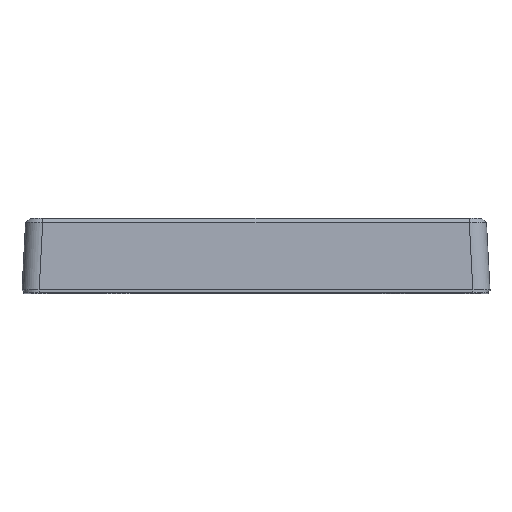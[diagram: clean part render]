
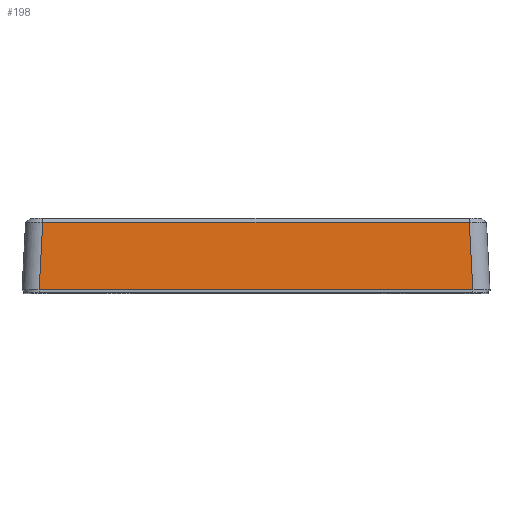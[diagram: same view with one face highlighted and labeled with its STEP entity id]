
A CAD part, top view. The second image highlights one B-rep face of the part: STEP entity #198.
In plain terms, the highlighted planar face has unit normal (0, 0.052, 0.999).
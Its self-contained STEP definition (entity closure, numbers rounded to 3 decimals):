
#57 = ORIENTED_EDGE ( 'NONE', *, *, #58, .T. ) ;
#58 = EDGE_CURVE ( 'NONE', #71, #59, #1169, .T. ) ;
#59 = VERTEX_POINT ( 'NONE', #1155 ) ;
#60 = ORIENTED_EDGE ( 'NONE', *, *, #61, .F. ) ;
#61 = EDGE_CURVE ( 'NONE', #67, #59, #1154, .T. ) ;
#64 = EDGE_LOOP ( 'NONE', ( #65, #69, #57, #60 ) ) ;
#65 = ORIENTED_EDGE ( 'NONE', *, *, #66, .T. ) ;
#66 = EDGE_CURVE ( 'NONE', #67, #68, #1149, .T. ) ;
#67 = VERTEX_POINT ( 'NONE', #1235 ) ;
#68 = VERTEX_POINT ( 'NONE', #1234 ) ;
#69 = ORIENTED_EDGE ( 'NONE', *, *, #70, .T. ) ;
#70 = EDGE_CURVE ( 'NONE', #68, #71, #1233, .T. ) ;
#71 = VERTEX_POINT ( 'NONE', #1229 ) ;
#198 = ADVANCED_FACE ( 'NONE', ( #1317 ), #1316, .T. ) ;
#1149 = LINE ( 'NONE', #1238, #1237 ) ;
#1151 = DIRECTION ( 'NONE',  ( -1., 0., 0. ) ) ;
#1152 = VECTOR ( 'NONE', #1151, 1000. ) ;
#1153 = CARTESIAN_POINT ( 'NONE',  ( -81.6, 1., 100.548 ) ) ;
#1154 = LINE ( 'NONE', #1153, #1152 ) ;
#1155 = CARTESIAN_POINT ( 'NONE',  ( -75.556, 1., 100.548 ) ) ;
#1166 = DIRECTION ( 'NONE',  ( -0.052, -0.997, 0.052 ) ) ;
#1167 = VECTOR ( 'NONE', #1166, 1000. ) ;
#1168 = CARTESIAN_POINT ( 'NONE',  ( -75.625, -0.312, 100.616 ) ) ;
#1169 = LINE ( 'NONE', #1168, #1167 ) ;
#1229 = CARTESIAN_POINT ( 'NONE',  ( -74.324, 24.502, 99.316 ) ) ;
#1230 = DIRECTION ( 'NONE',  ( -1., 0., 0. ) ) ;
#1231 = VECTOR ( 'NONE', #1230, 1000. ) ;
#1232 = CARTESIAN_POINT ( 'NONE',  ( -74.246, 24.502, 99.316 ) ) ;
#1233 = LINE ( 'NONE', #1232, #1231 ) ;
#1234 = CARTESIAN_POINT ( 'NONE',  ( 74.324, 24.502, 99.316 ) ) ;
#1235 = CARTESIAN_POINT ( 'NONE',  ( 75.556, 1., 100.548 ) ) ;
#1236 = DIRECTION ( 'NONE',  ( -0.052, 0.997, -0.052 ) ) ;
#1237 = VECTOR ( 'NONE', #1236, 1000. ) ;
#1238 = CARTESIAN_POINT ( 'NONE',  ( 75.179, 8.194, 100.171 ) ) ;
#1313 = DIRECTION ( 'NONE',  ( 0., 0.052, 0.999 ) ) ;
#1314 = CARTESIAN_POINT ( 'NONE',  ( -81.6, 0., 100.6 ) ) ;
#1315 = AXIS2_PLACEMENT_3D ( 'NONE', #1314, #1313, #1431 ) ;
#1316 = PLANE ( 'NONE',  #1315 ) ;
#1317 = FACE_OUTER_BOUND ( 'NONE', #64, .T. ) ;
#1431 = DIRECTION ( 'NONE',  ( 0., -0.999, 0.052 ) ) ;
